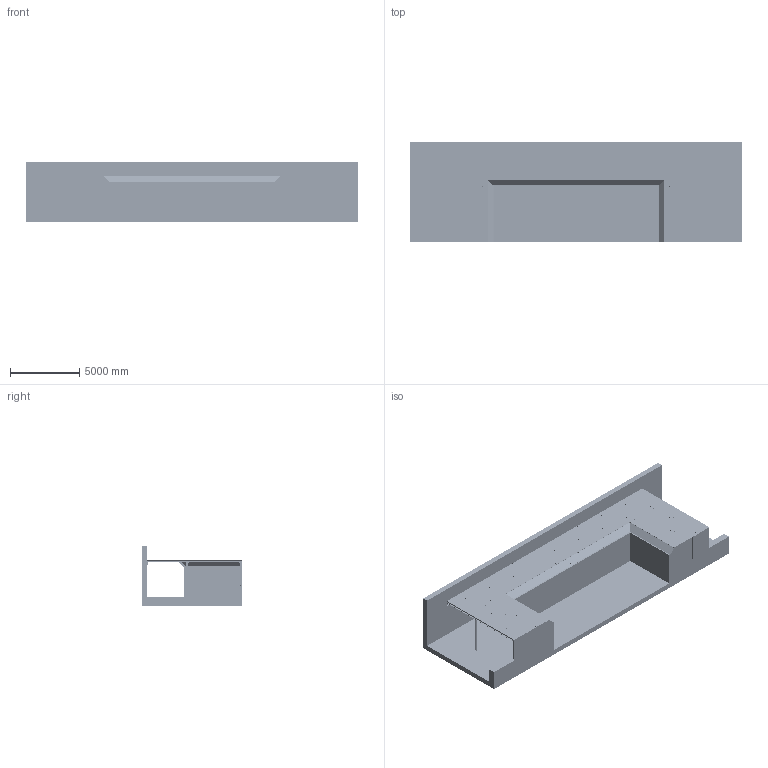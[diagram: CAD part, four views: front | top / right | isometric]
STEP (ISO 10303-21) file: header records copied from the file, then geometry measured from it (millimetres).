
FILE_DESCRIPTION(('TFLEX Exchange Step'),'2;1');
FILE_NAME('as_gray_1.stp', '2026-10-10T15:40:09+02:00',('User'),('Unknown organisation'),'TFLEX Exchange 2021.2','T-FLEX CAD','Unknown authorisation');
FILE_SCHEMA( ('AUTOMOTIVE_DESIGN { 1 0 10303 214 1 1 1 1 }') );
Length unit declared in the file: millimetre
Products named in the file (1623): EnBW - Wahlheim Klaerschlam-Heizkraftwerk - Schlammtrichter; Ohne Position - Blech t=500 mm - C25/30 - 6090 mm - 8373.75 kg/St - 2x; Ohne Position - Blech t=4190 mm - C25/30 - 12220 mm - 320011.25 kg; Ohne Position - Blech t=400 mm - C25/30 - 24000 mm - 96000.00 kg/St - 2x; Ohne Position - Blech t=250 mm - C25/30 - 7590 mm - 12618.38 kg; Ohne Position - HEB 160 - S235JR - 6840 mm - 280.93 kg/St - 16x; Ohne Position - HEB 140 - S235JR - 2310 mm - 74.70 kg/St - 28x; Ohne Position - HEB 120 - S235JR - 910 mm - 23.41 kg/St - 50x; Ohne Position - IPE 120 - S235JR - 950 mm - 9.54 kg/St - 10x; Ohne Position - Blech t=10 mm - S235JR - 220 mm - 2.42 kg/St - 96x; Ohne Positionsnummer; Ohne Position - Sonderteil - 140 mm - 222x; Ohne Position - U200 - S235JR - 5020 mm - 127.26 kg/St - 4x; Ohne Position - Blech t=20 mm - S235JR - 140 mm - 1.32 kg/St - 68x; Ohne Position - Blech t=15 mm - S235JR - 160 mm - 4.14 kg/St - 126x; Ohne Position - Blech t=10 mm - S235JR - 160 mm - 1.63 kg/St - 19x; Ohne Position - Blech t=5 mm - S235JR - 160 mm - 0.82 kg/St - 19x; Ohne Position - Blech t=2 mm - S235JR - 160 mm - 0.33 kg/St - 19x; Ohne Position - Blech t=2 mm - S235JR - 2197 mm - 5.48 kg/St - 10x; Ohne Position - Blech t=35 mm - S235JR - 120 mm - 1.98 kg/St - 12x
Assembly tree (1622 placements, depth 2):
  EnBW - Wahlheim Klaerschlam-Heizkraftwerk - Schlammtrichter
    Ohne Position - Blech t=500 mm - C25/30 - 6090 mm - 8373.75 kg/St - 2x
    Ohne Position - Blech t=500 mm - C25/30 - 6090 mm - 8373.75 kg/St - 2x
    Ohne Position - Blech t=4190 mm - C25/30 - 12220 mm - 320011.25 kg
    Ohne Position - Blech t=400 mm - C25/30 - 24000 mm - 96000.00 kg/St - 2x
    Ohne Position - Blech t=400 mm - C25/30 - 24000 mm - 96000.00 kg/St - 2x
    Ohne Position - Blech t=250 mm - C25/30 - 7590 mm - 12618.38 kg
    Ohne Position - HEB 160 - S235JR - 6840 mm - 280.93 kg/St - 16x
    Ohne Position - HEB 160 - S235JR - 6840 mm - 280.93 kg/St - 16x
    Ohne Position - HEB 160 - S235JR - 6840 mm - 280.93 kg/St - 16x
    Ohne Position - HEB 160 - S235JR - 6840 mm - 280.93 kg/St - 16x
    Ohne Position - HEB 160 - S235JR - 6840 mm - 280.93 kg/St - 16x
    Ohne Position - HEB 160 - S235JR - 6840 mm - 280.93 kg/St - 16x
    Ohne Position - HEB 160 - S235JR - 6840 mm - 280.93 kg/St - 16x
    Ohne Position - HEB 160 - S235JR - 6840 mm - 280.93 kg/St - 16x
    Ohne Position - HEB 160 - S235JR - 6840 mm - 280.93 kg/St - 16x
    Ohne Position - HEB 160 - S235JR - 6840 mm - 280.93 kg/St - 16x
    Ohne Position - HEB 160 - S235JR - 6840 mm - 280.93 kg/St - 16x
    Ohne Position - HEB 160 - S235JR - 6840 mm - 280.93 kg/St - 16x
    Ohne Position - HEB 160 - S235JR - 6840 mm - 280.93 kg/St - 16x
    Ohne Position - HEB 160 - S235JR - 6840 mm - 280.93 kg/St - 16x
    Ohne Position - HEB 160 - S235JR - 6840 mm - 280.93 kg/St - 16x
    Ohne Position - HEB 160 - S235JR - 6840 mm - 280.93 kg/St - 16x
    Ohne Position - HEB 140 - S235JR - 2310 mm - 74.70 kg/St - 28x
    Ohne Position - HEB 140 - S235JR - 2310 mm - 74.70 kg/St - 28x
    Ohne Position - HEB 140 - S235JR - 2310 mm - 74.70 kg/St - 28x
    Ohne Position - HEB 140 - S235JR - 2310 mm - 74.70 kg/St - 28x
    Ohne Position - HEB 140 - S235JR - 2310 mm - 74.70 kg/St - 28x
    Ohne Position - HEB 140 - S235JR - 2310 mm - 74.70 kg/St - 28x
    Ohne Position - HEB 140 - S235JR - 2310 mm - 74.70 kg/St - 28x
    Ohne Position - HEB 140 - S235JR - 2310 mm - 74.70 kg/St - 28x
    Ohne Position - HEB 140 - S235JR - 2310 mm - 74.70 kg/St - 28x
    Ohne Position - HEB 140 - S235JR - 2310 mm - 74.70 kg/St - 28x
    Ohne Position - HEB 140 - S235JR - 2310 mm - 74.70 kg/St - 28x
    Ohne Position - HEB 140 - S235JR - 2310 mm - 74.70 kg/St - 28x
    Ohne Position - HEB 140 - S235JR - 2310 mm - 74.70 kg/St - 28x
    Ohne Position - HEB 140 - S235JR - 2310 mm - 74.70 kg/St - 28x
    Ohne Position - HEB 140 - S235JR - 2310 mm - 74.70 kg/St - 28x
    Ohne Position - HEB 140 - S235JR - 2310 mm - 74.70 kg/St - 28x
    Ohne Position - HEB 140 - S235JR - 2310 mm - 74.70 kg/St - 28x
    Ohne Position - HEB 140 - S235JR - 2310 mm - 74.70 kg/St - 28x
    Ohne Position - HEB 140 - S235JR - 2310 mm - 74.70 kg/St - 28x
    Ohne Position - HEB 140 - S235JR - 2310 mm - 74.70 kg/St - 28x
    Ohne Position - HEB 140 - S235JR - 2310 mm - 74.70 kg/St - 28x
    Ohne Position - HEB 140 - S235JR - 2310 mm - 74.70 kg/St - 28x
    Ohne Position - HEB 140 - S235JR - 2310 mm - 74.70 kg/St - 28x
    Ohne Position - HEB 140 - S235JR - 2310 mm - 74.70 kg/St - 28x
    Ohne Position - HEB 140 - S235JR - 2310 mm - 74.70 kg/St - 28x
    Ohne Position - HEB 140 - S235JR - 2310 mm - 74.70 kg/St - 28x
    Ohne Position - HEB 140 - S235JR - 2310 mm - 74.70 kg/St - 28x
    Ohne Position - HEB 140 - S235JR - 2310 mm - 74.70 kg/St - 28x
    Ohne Position - HEB 120 - S235JR - 910 mm - 23.41 kg/St - 50x
    Ohne Position - HEB 120 - S235JR - 910 mm - 23.41 kg/St - 50x
    Ohne Position - HEB 120 - S235JR - 910 mm - 23.41 kg/St - 50x
    Ohne Position - HEB 120 - S235JR - 910 mm - 23.41 kg/St - 50x
    Ohne Position - HEB 120 - S235JR - 910 mm - 23.41 kg/St - 50x
    Ohne Position - HEB 120 - S235JR - 910 mm - 23.41 kg/St - 50x
    Ohne Position - HEB 120 - S235JR - 910 mm - 23.41 kg/St - 50x
    Ohne Position - HEB 120 - S235JR - 910 mm - 23.41 kg/St - 50x
    Ohne Position - HEB 120 - S235JR - 910 mm - 23.41 kg/St - 50x
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Bounding box: 24000 x 7286 x 4400 mm (x, y, z)
Volume: 132521341655 mm3; surface area: 1166060318.9 mm2
Topology: 1622 solids, 1622 shells, 27659 faces, 64451 edges, 43678 vertices
Faces by surface type: plane 19327, cylinder 7722, cone 610
Full cylindrical faces by diameter (mm): 8.002 x16, 10 x776, 10.002 x57, 12 x1286, 12.002 x184, 13 x111, 14.002 x812, 16 x160, 16.002 x111, 18.002 x80, 20 x776, 24 x749, 30 x160
Entity records: 1822896 total; most frequent: CARTESIAN_POINT 1177406, DIRECTION 122065, ORIENTED_EDGE 120312, EDGE_CURVE 60156, VERTEX_POINT 43678, AXIS2_PLACEMENT_3D 41054, VECTOR 39957, LINE 39957
